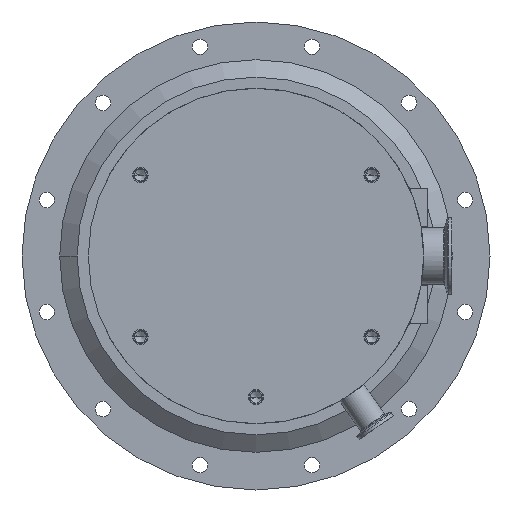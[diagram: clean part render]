
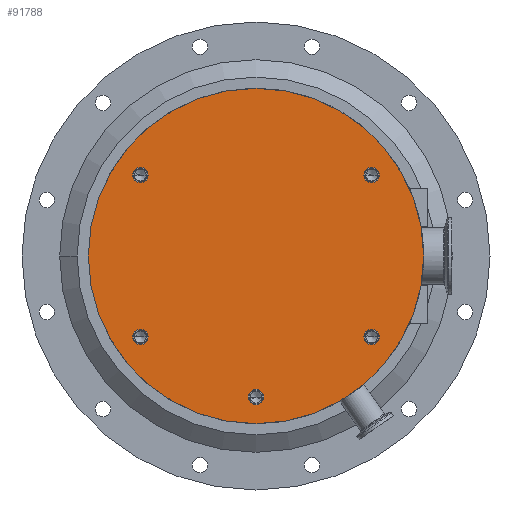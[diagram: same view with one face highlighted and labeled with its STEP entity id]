
A CAD part, front view. The second image highlights one B-rep face of the part: STEP entity #91788.
In plain terms, the highlighted planar face has unit normal (0, -1, 0).
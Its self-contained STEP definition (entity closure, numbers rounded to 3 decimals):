
#26376=CARTESIAN_POINT('',(0.,-55.5,0.));
#26377=DIRECTION('',(0.,1.,0.));
#26378=DIRECTION('',(-1.,0.,0.));
#26379=AXIS2_PLACEMENT_3D('',#26376,#26377,#26378);
#26381=CARTESIAN_POINT('',(0.,-55.5,0.));
#26382=DIRECTION('',(0.,-1.,0.));
#26383=DIRECTION('',(-1.,0.,0.));
#26384=AXIS2_PLACEMENT_3D('',#26381,#26382,#26383);
#26386=CARTESIAN_POINT('',(0.,-55.5,-101.));
#26387=DIRECTION('',(0.,-1.,0.));
#26388=DIRECTION('',(-1.,0.,0.));
#26389=AXIS2_PLACEMENT_3D('',#26386,#26387,#26388);
#26391=CARTESIAN_POINT('',(0.,-55.5,-101.));
#26392=DIRECTION('',(0.,-1.,0.));
#26393=DIRECTION('',(1.,0.,0.));
#26394=AXIS2_PLACEMENT_3D('',#26391,#26392,#26393);
#26396=CARTESIAN_POINT('',(82.734,-55.5,57.931));
#26397=DIRECTION('',(0.,-1.,0.));
#26398=DIRECTION('',(-1.,0.,0.));
#26399=AXIS2_PLACEMENT_3D('',#26396,#26397,#26398);
#26401=CARTESIAN_POINT('',(82.734,-55.5,57.931));
#26402=DIRECTION('',(0.,-1.,0.));
#26403=DIRECTION('',(1.,0.,0.));
#26404=AXIS2_PLACEMENT_3D('',#26401,#26402,#26403);
#26406=CARTESIAN_POINT('',(-82.734,-55.5,57.931));
#26407=DIRECTION('',(0.,-1.,0.));
#26408=DIRECTION('',(-1.,0.,0.));
#26409=AXIS2_PLACEMENT_3D('',#26406,#26407,#26408);
#26411=CARTESIAN_POINT('',(-82.734,-55.5,57.931));
#26412=DIRECTION('',(0.,-1.,0.));
#26413=DIRECTION('',(1.,0.,0.));
#26414=AXIS2_PLACEMENT_3D('',#26411,#26412,#26413);
#26416=CARTESIAN_POINT('',(82.734,-55.5,-57.931));
#26417=DIRECTION('',(0.,-1.,0.));
#26418=DIRECTION('',(-1.,0.,0.));
#26419=AXIS2_PLACEMENT_3D('',#26416,#26417,#26418);
#26421=CARTESIAN_POINT('',(82.734,-55.5,-57.931));
#26422=DIRECTION('',(0.,-1.,0.));
#26423=DIRECTION('',(1.,0.,0.));
#26424=AXIS2_PLACEMENT_3D('',#26421,#26422,#26423);
#26426=CARTESIAN_POINT('',(-82.734,-55.5,-57.931));
#26427=DIRECTION('',(0.,-1.,0.));
#26428=DIRECTION('',(-1.,0.,0.));
#26429=AXIS2_PLACEMENT_3D('',#26426,#26427,#26428);
#26431=CARTESIAN_POINT('',(-82.734,-55.5,-57.931));
#26432=DIRECTION('',(0.,-1.,0.));
#26433=DIRECTION('',(1.,0.,0.));
#26434=AXIS2_PLACEMENT_3D('',#26431,#26432,#26433);
#27965=CARTESIAN_POINT('',(-120.,-55.5,0.));
#27967=VERTEX_POINT('',#27965);
#27987=CARTESIAN_POINT('',(120.,-55.5,0.));
#27989=VERTEX_POINT('',#27987);
#33411=CARTESIAN_POINT('',(-5.5,-55.5,-101.));
#33412=CARTESIAN_POINT('',(5.5,-55.5,-101.));
#33413=VERTEX_POINT('',#33411);
#33414=VERTEX_POINT('',#33412);
#33429=CARTESIAN_POINT('',(77.234,-55.5,57.931));
#33430=CARTESIAN_POINT('',(88.234,-55.5,57.931));
#33431=VERTEX_POINT('',#33429);
#33432=VERTEX_POINT('',#33430);
#33447=CARTESIAN_POINT('',(-88.234,-55.5,57.931));
#33448=CARTESIAN_POINT('',(-77.234,-55.5,57.931));
#33449=VERTEX_POINT('',#33447);
#33450=VERTEX_POINT('',#33448);
#33465=CARTESIAN_POINT('',(77.234,-55.5,-57.931));
#33466=CARTESIAN_POINT('',(88.234,-55.5,-57.931));
#33467=VERTEX_POINT('',#33465);
#33468=VERTEX_POINT('',#33466);
#33483=CARTESIAN_POINT('',(-88.234,-55.5,-57.931));
#33484=CARTESIAN_POINT('',(-77.234,-55.5,-57.931));
#33485=VERTEX_POINT('',#33483);
#33486=VERTEX_POINT('',#33484);
#91749=CARTESIAN_POINT('',(0.,-55.5,0.));
#91750=DIRECTION('',(0.,-1.,0.));
#91751=DIRECTION('',(-1.,0.,0.));
#91752=AXIS2_PLACEMENT_3D('',#91749,#91750,#91751);
#91753=PLANE('',#91752);
#91754=ORIENTED_EDGE('',*,*,#91418,.T.);
#91755=ORIENTED_EDGE('',*,*,#91645,.F.);
#91756=EDGE_LOOP('',(#91754,#91755));
#91757=FACE_OUTER_BOUND('',#91756,.F.);
#91759=ORIENTED_EDGE('',*,*,#91758,.T.);
#91761=ORIENTED_EDGE('',*,*,#91760,.T.);
#91762=EDGE_LOOP('',(#91759,#91761));
#91763=FACE_BOUND('',#91762,.F.);
#91765=ORIENTED_EDGE('',*,*,#91764,.T.);
#91767=ORIENTED_EDGE('',*,*,#91766,.T.);
#91768=EDGE_LOOP('',(#91765,#91767));
#91769=FACE_BOUND('',#91768,.F.);
#91771=ORIENTED_EDGE('',*,*,#91770,.T.);
#91773=ORIENTED_EDGE('',*,*,#91772,.T.);
#91774=EDGE_LOOP('',(#91771,#91773));
#91775=FACE_BOUND('',#91774,.F.);
#91777=ORIENTED_EDGE('',*,*,#91776,.T.);
#91779=ORIENTED_EDGE('',*,*,#91778,.T.);
#91780=EDGE_LOOP('',(#91777,#91779));
#91781=FACE_BOUND('',#91780,.F.);
#91783=ORIENTED_EDGE('',*,*,#91782,.T.);
#91785=ORIENTED_EDGE('',*,*,#91784,.T.);
#91786=EDGE_LOOP('',(#91783,#91785));
#91787=FACE_BOUND('',#91786,.F.);
#91788=ADVANCED_FACE('',(#91757,#91763,#91769,#91775,#91781,#91787),#91753,.T.);
#26380=CIRCLE('',#26379,120.);
#26385=CIRCLE('',#26384,120.);
#26390=CIRCLE('',#26389,5.5);
#26395=CIRCLE('',#26394,5.5);
#26400=CIRCLE('',#26399,5.5);
#26405=CIRCLE('',#26404,5.5);
#26410=CIRCLE('',#26409,5.5);
#26415=CIRCLE('',#26414,5.5);
#26420=CIRCLE('',#26419,5.5);
#26425=CIRCLE('',#26424,5.5);
#26430=CIRCLE('',#26429,5.5);
#26435=CIRCLE('',#26434,5.5);
#91418=EDGE_CURVE('',#27967,#27989,#26380,.T.);
#91645=EDGE_CURVE('',#27967,#27989,#26385,.T.);
#91758=EDGE_CURVE('',#33413,#33414,#26390,.T.);
#91760=EDGE_CURVE('',#33414,#33413,#26395,.T.);
#91764=EDGE_CURVE('',#33431,#33432,#26400,.T.);
#91766=EDGE_CURVE('',#33432,#33431,#26405,.T.);
#91770=EDGE_CURVE('',#33449,#33450,#26410,.T.);
#91772=EDGE_CURVE('',#33450,#33449,#26415,.T.);
#91776=EDGE_CURVE('',#33467,#33468,#26420,.T.);
#91778=EDGE_CURVE('',#33468,#33467,#26425,.T.);
#91782=EDGE_CURVE('',#33485,#33486,#26430,.T.);
#91784=EDGE_CURVE('',#33486,#33485,#26435,.T.);
